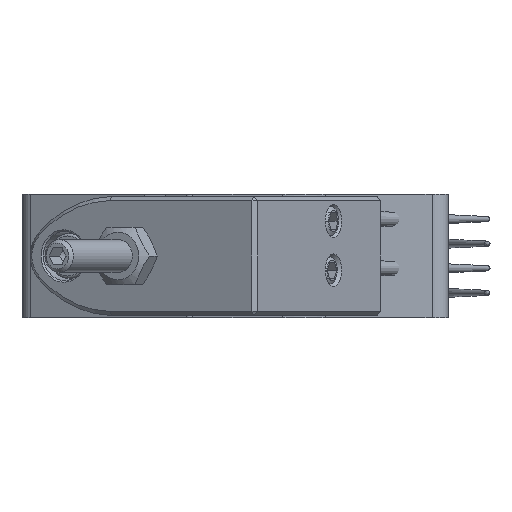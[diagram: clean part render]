
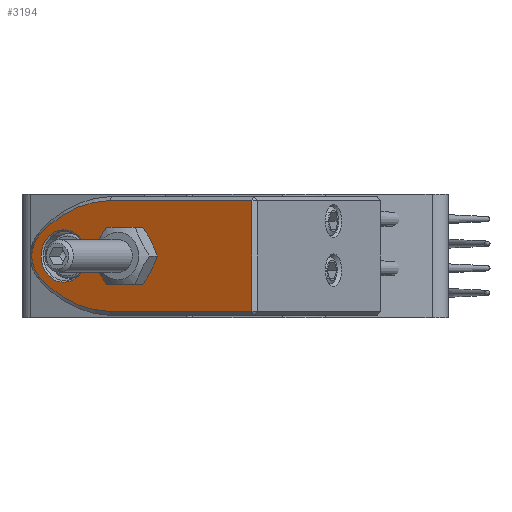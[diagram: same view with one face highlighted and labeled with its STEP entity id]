
A CAD part, left-side view. The second image highlights one B-rep face of the part: STEP entity #3194.
In plain terms, the highlighted planar face has unit normal (-0.866, 0.5, 0) as drawn and (0, -1, 0) by its records, which use the part's own axes.
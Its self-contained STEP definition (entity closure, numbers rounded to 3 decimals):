
#258=LINE('',#5325,#495);
#259=LINE('',#5327,#496);
#260=LINE('',#5334,#497);
#495=VECTOR('',#4269,10.);
#496=VECTOR('',#4270,10.);
#497=VECTOR('',#4277,10.);
#676=FACE_BOUND('',#1016,.T.);
#677=FACE_BOUND('',#1017,.T.);
#802=FACE_OUTER_BOUND('',#1015,.T.);
#1015=EDGE_LOOP('',(#2450,#2451,#2452,#2453,#2454,#2455));
#1016=EDGE_LOOP('',(#2456));
#1017=EDGE_LOOP('',(#2457));
#1200=CIRCLE('',#3586,2.9);
#1201=CIRCLE('',#3595,14.32);
#1202=CIRCLE('',#3596,3.5);
#1203=CIRCLE('',#3597,14.32);
#1204=CIRCLE('',#3598,3.2);
#1401=VERTEX_POINT('',#5278);
#1408=VERTEX_POINT('',#5323);
#1409=VERTEX_POINT('',#5324);
#1410=VERTEX_POINT('',#5326);
#1411=VERTEX_POINT('',#5328);
#1412=VERTEX_POINT('',#5330);
#1413=VERTEX_POINT('',#5332);
#1414=VERTEX_POINT('',#5335);
#1757=EDGE_CURVE('',#1401,#1401,#1200,.T.);
#1772=EDGE_CURVE('',#1408,#1409,#258,.T.);
#1773=EDGE_CURVE('',#1410,#1408,#259,.T.);
#1774=EDGE_CURVE('',#1411,#1410,#1201,.T.);
#1775=EDGE_CURVE('',#1412,#1411,#1202,.T.);
#1776=EDGE_CURVE('',#1413,#1412,#1203,.T.);
#1777=EDGE_CURVE('',#1409,#1413,#260,.T.);
#1778=EDGE_CURVE('',#1414,#1414,#1204,.T.);
#2450=ORIENTED_EDGE('',*,*,#1772,.F.);
#2451=ORIENTED_EDGE('',*,*,#1773,.F.);
#2452=ORIENTED_EDGE('',*,*,#1774,.F.);
#2453=ORIENTED_EDGE('',*,*,#1775,.F.);
#2454=ORIENTED_EDGE('',*,*,#1776,.F.);
#2455=ORIENTED_EDGE('',*,*,#1777,.F.);
#2456=ORIENTED_EDGE('',*,*,#1778,.F.);
#2457=ORIENTED_EDGE('',*,*,#1757,.T.);
#2853=PLANE('',#3594);
#3194=ADVANCED_FACE('',(#802,#676,#677),#2853,.T.);
#3586=AXIS2_PLACEMENT_3D('',#5280,#4244,#4245);
#3594=AXIS2_PLACEMENT_3D('',#5322,#4267,#4268);
#3595=AXIS2_PLACEMENT_3D('',#5329,#4271,#4272);
#3596=AXIS2_PLACEMENT_3D('',#5331,#4273,#4274);
#3597=AXIS2_PLACEMENT_3D('',#5333,#4275,#4276);
#3598=AXIS2_PLACEMENT_3D('',#5336,#4278,#4279);
#4244=DIRECTION('center_axis',(0.,1.,0.));
#4245=DIRECTION('ref_axis',(1.,0.,0.));
#4267=DIRECTION('center_axis',(0.,-1.,0.));
#4268=DIRECTION('ref_axis',(0.,0.,-1.));
#4269=DIRECTION('',(0.,0.,-1.));
#4270=DIRECTION('',(1.,0.,0.));
#4271=DIRECTION('center_axis',(0.,1.,0.));
#4272=DIRECTION('ref_axis',(0.017,0.,1.));
#4273=DIRECTION('center_axis',(0.,1.,0.));
#4274=DIRECTION('ref_axis',(-0.715,0.,0.699));
#4275=DIRECTION('center_axis',(0.,1.,0.));
#4276=DIRECTION('ref_axis',(-0.86,0.,-0.511));
#4277=DIRECTION('',(-1.,0.,0.));
#4278=DIRECTION('center_axis',(0.,-1.,0.));
#4279=DIRECTION('ref_axis',(-1.,0.,0.));
#5278=CARTESIAN_POINT('',(2.961,3.5,0.));
#5280=CARTESIAN_POINT('Origin',(5.861,3.5,0.));
#5322=CARTESIAN_POINT('Origin',(23.361,3.5,0.));
#5323=CARTESIAN_POINT('',(22.861,3.5,6.75));
#5324=CARTESIAN_POINT('',(22.861,3.5,-6.75));
#5325=CARTESIAN_POINT('',(22.861,3.5,0.));
#5326=CARTESIAN_POINT('',(2.85,3.5,6.75));
#5327=CARTESIAN_POINT('',(17.16,3.5,6.75));
#5328=CARTESIAN_POINT('',(-7.131,3.5,2.448));
#5329=CARTESIAN_POINT('Origin',(3.103,3.5,-7.567));
#5330=CARTESIAN_POINT('',(-7.131,3.5,-2.448));
#5331=CARTESIAN_POINT('Origin',(-4.63,3.5,0.));
#5332=CARTESIAN_POINT('',(2.85,3.5,-6.75));
#5333=CARTESIAN_POINT('Origin',(3.103,3.5,7.567));
#5334=CARTESIAN_POINT('',(17.16,3.5,-6.75));
#5335=CARTESIAN_POINT('',(-0.439,3.5,0.));
#5336=CARTESIAN_POINT('Origin',(-3.639,3.5,0.));
